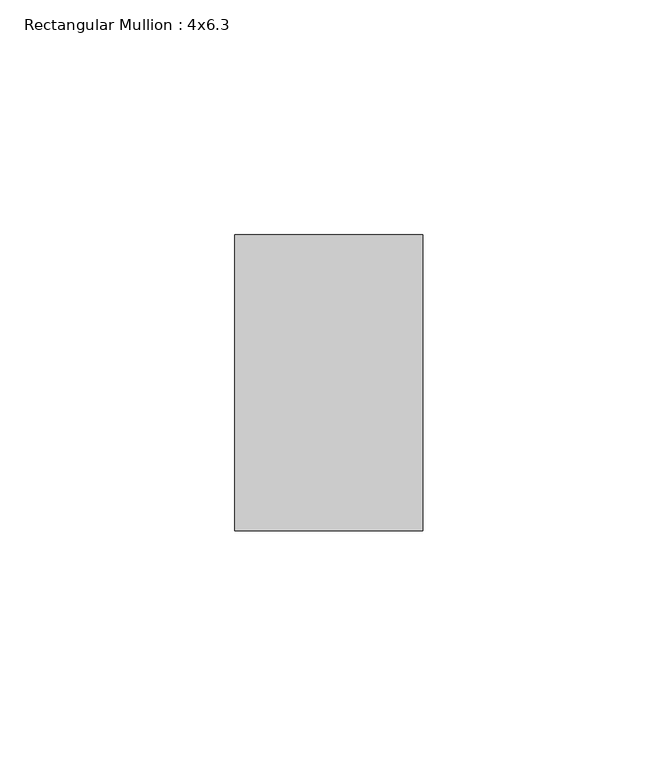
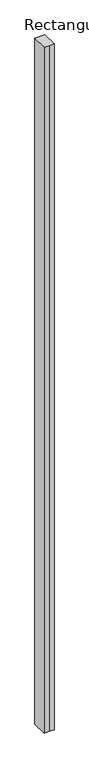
"""IFC4 building model written with IfcOpenShell, lengths in millimetres: member geometry, Rectangular Mullion : 4x6.3."""

import ifcopenshell
import ifcopenshell.guid

model = None  # the IFC model being written
_history = None  # IfcOwnerHistory: only IFC2X3 demands one
_inside = {}  # id of a spatial element -> (the spatial element, [elements in it])
_under = {}  # id of a project, library or spatial element -> (it, [spatial elements below it])
_declared = {}  # id of a project -> (the project, [libraries it declares])
_typed = {}  # id of a type object -> (the type object, [elements of that type])
_made_of = {}  # id of a material, layer set ... -> (it, [elements and type objects made of it])


def new_model(schema):
    """Start an empty IFC model of exactly this schema.

    Asked for "IFC4X3", IfcOpenShell would pick the latest addendum, in which some entities
    have other attributes; the version numbers below select the first issue.
    IFC2X3 requires an IfcOwnerHistory on every rooted entity: one is made here for all.
    """
    global model, _history
    if schema == "IFC4X3":
        model = ifcopenshell.file(schema_version=(4, 3, 0, 0))
    else:
        model = ifcopenshell.file(schema=schema)
    _inside.clear()
    _under.clear()
    _declared.clear()
    _typed.clear()
    _made_of.clear()
    _history = None
    if model.schema == "IFC2X3":
        org = make("IfcOrganization", Name="unknown")
        user = make(
            "IfcPersonAndOrganization",
            ThePerson=make("IfcPerson", FamilyName="unknown"),
            TheOrganization=org,
        )
        app = make(
            "IfcApplication",
            ApplicationDeveloper=org,
            Version="unknown",
            ApplicationFullName="unknown",
            ApplicationIdentifier="unknown",
        )
        _history = make(
            "IfcOwnerHistory",
            OwningUser=user,
            OwningApplication=app,
            ChangeAction="ADDED",
            CreationDate=0,
        )
    return model


def make(cls, **values):
    """One entity of the class cls with the attributes given. An attribute that is None is left unset."""
    return model.create_entity(
        cls, **{name: value for name, value in values.items() if value is not None}
    )


def rooted(cls, **values):
    """An entity with a GlobalId (a new one), such as an element, a storey or a relation."""
    return make(cls, GlobalId=ifcopenshell.guid.new(), OwnerHistory=_history, **values)


def si_unit(unit_type, name, prefix=None):
    """IfcSIUnit, for example si_unit("LENGTHUNIT", "METRE", prefix="MILLI")."""
    return make("IfcSIUnit", UnitType=unit_type, Prefix=prefix, Name=name)


def assignment(units):
    """IfcUnitAssignment: the units of a project."""
    return None if units is None else make("IfcUnitAssignment", Units=units)


def point(xyz):
    """IfcCartesianPoint."""
    return None if xyz is None else make("IfcCartesianPoint", Coordinates=xyz)


def direction(xyz):
    """IfcDirection."""
    return None if xyz is None else make("IfcDirection", DirectionRatios=xyz)


def frame(location, z_axis=None, x_axis=None):
    """IfcAxis2Placement3D, a coordinate frame: its origin and axes. An axis left out is left unset."""
    return make(
        "IfcAxis2Placement3D",
        Location=point(location),
        Axis=direction(z_axis),
        RefDirection=direction(x_axis),
    )


def origin():
    """The frame at (0, 0, 0) with its axes left unset."""
    return frame((0.0, 0.0, 0.0))


def place(relative_to, where):
    """IfcLocalPlacement: puts the frame where relative to a parent placement (None: the world)."""
    return make(
        "IfcLocalPlacement", PlacementRelTo=relative_to, RelativePlacement=where
    )


def context(
    kind, dimensions, precision=None, world=None, true_north=None, identifier=None
):
    """IfcGeometricRepresentationContext, for example the 3D "Model" context."""
    return make(
        "IfcGeometricRepresentationContext",
        ContextIdentifier=identifier,
        ContextType=kind,
        CoordinateSpaceDimension=dimensions,
        Precision=precision,
        WorldCoordinateSystem=world,
        TrueNorth=true_north,
    )


def project(units=None, contexts=None):
    """IfcProject with its units and contexts."""
    return rooted(
        "IfcProject",
        Name="project",
        RepresentationContexts=contexts,
        UnitsInContext=assignment(units),
    )


def spatial(cls, under=None, at=None, **own):
    """A site, building, storey or space (cls), placed at a placement, below another one or the project."""
    s = rooted(cls, ObjectPlacement=at, **own)
    if under is not None:
        _under.setdefault(under.id(), (under, []))[1].append(s)
    return s


def polyline(points):
    """IfcPolyline through the points."""
    return make("IfcPolyline", Points=[point(p) for p in points])


def outline(outer, holes=None, kind="AREA"):
    """IfcArbitraryClosedProfileDef: a profile drawn as a closed curve; with holes, ...WithVoids."""
    if holes is None:
        return make("IfcArbitraryClosedProfileDef", ProfileType=kind, OuterCurve=outer)
    return make(
        "IfcArbitraryProfileDefWithVoids",
        ProfileType=kind,
        OuterCurve=outer,
        InnerCurves=holes,
    )


def extrude(swept, where, along, depth):
    """IfcExtrudedAreaSolid: the profile swept, set in the frame where, extruded along a direction by depth."""
    return make(
        "IfcExtrudedAreaSolid",
        SweptArea=swept,
        Position=where,
        ExtrudedDirection=direction(along),
        Depth=depth,
    )


def shape(context_of_items, identifier, shape_type, items):
    """IfcShapeRepresentation: the items that make up one representation, for example the "Body"."""
    return make(
        "IfcShapeRepresentation",
        ContextOfItems=context_of_items,
        RepresentationIdentifier=identifier,
        RepresentationType=shape_type,
        Items=items,
    )


def source(mapping_origin, context_of_items, identifier, shape_type, items):
    """IfcRepresentationMap: a shape defined once, which mapped items show again and again."""
    return make(
        "IfcRepresentationMap",
        MappingOrigin=mapping_origin,
        MappedRepresentation=shape(context_of_items, identifier, shape_type, items),
    )


def transform(
    local_origin,
    x_axis=None,
    y_axis=None,
    z_axis=None,
    scale=None,
    scale2=None,
    scale3=None,
    uniform=True,
):
    """IfcCartesianTransformationOperator3D, or its non-uniform kind. x_axis, y_axis, z_axis: its Axis1, 2, 3."""
    if uniform:
        return make(
            "IfcCartesianTransformationOperator3D",
            Axis1=direction(x_axis),
            Axis2=direction(y_axis),
            LocalOrigin=point(local_origin),
            Scale=scale,
            Axis3=direction(z_axis),
        )
    return make(
        "IfcCartesianTransformationOperator3DnonUniform",
        Axis1=direction(x_axis),
        Axis2=direction(y_axis),
        LocalOrigin=point(local_origin),
        Scale=scale,
        Axis3=direction(z_axis),
        Scale2=scale2,
        Scale3=scale3,
    )


def mapped(mapping_source, mapping_target):
    """IfcMappedItem: shows the shape of a source again, moved by a transform."""
    return make(
        "IfcMappedItem", MappingSource=mapping_source, MappingTarget=mapping_target
    )


def made_of(thing, what):
    """Note that an element or type object is made of a material, layer set ...; save() writes the relation."""
    if what is not None:
        _made_of.setdefault(what.id(), (what, []))[1].append(thing)
    return thing


def element(
    cls,
    number,
    at=None,
    inside=None,
    cuts=None,
    type_object=None,
    material=None,
    context=None,
    identifier="Body",
    shape_type=None,
    held_by="IfcProductDefinitionShape",
    body=None,
    shapes=None,
    **own,
):
    """One element of the class cls, such as IfcWall. Its Tag is "e" and its number.

    at: its placement. inside: the storey or other place that contains it. cuts: it is an
    opening in that element (IfcRelVoidsElement). A single representation is given by context,
    identifier, shape_type and body (its items); several are given by shapes. held_by: the class
    of the entity that holds the representations. save() writes the other relations.
    """
    e = rooted(cls, Tag="e%d" % number, ObjectPlacement=at, **own)
    if body is not None:
        shapes = [shape(context, identifier, shape_type, body)]
    if shapes is not None:
        e.Representation = make(held_by, Representations=shapes)
    if inside is not None:
        _inside.setdefault(inside.id(), (inside, []))[1].append(e)
    if cuts is not None:
        rooted(
            "IfcRelVoidsElement", RelatingBuildingElement=cuts, RelatedOpeningElement=e
        )
    if type_object is not None:
        _typed.setdefault(type_object.id(), (type_object, []))[1].append(e)
    return made_of(e, material)


def aggregate(whole, parts):
    """IfcRelAggregates: a whole, such as a stair, and the parts it consists of."""
    return rooted("IfcRelAggregates", RelatingObject=whole, RelatedObjects=parts)


def save(model, path):
    """Write the relations noted so far, then the file.

    IfcRelAggregates (storeys below a building ...), IfcRelContainedInSpatialStructure (elements
    in a storey), IfcRelDefinesByType, IfcRelAssociatesMaterial and IfcRelDeclares: one each for
    every whole, place, type object, material and project.
    """
    for whole, parts in _under.values():
        aggregate(whole, parts)
    for where, things in _inside.values():
        rooted(
            "IfcRelContainedInSpatialStructure",
            RelatedElements=things,
            RelatingStructure=where,
        )
    for kind, things in _typed.values():
        rooted("IfcRelDefinesByType", RelatedObjects=things, RelatingType=kind)
    for what, things in _made_of.values():
        rooted("IfcRelAssociatesMaterial", RelatedObjects=things, RelatingMaterial=what)
    for by, libraries in _declared.values():
        rooted("IfcRelDeclares", RelatingContext=by, RelatedDefinitions=libraries)
    model.write(path)


def rectangular_mullion_4x6_3_ff4a991a(model_context):
    return source(origin(), model_context, "Body", "SweptSolid", [
        extrude(outline(polyline([(-20.0, 20.0), (-20.0, 83.0), (20.0, 83.0), (20.0, 20.0), (0.0, 20.0), (-20.0, 20.0)])), frame((0.0, 0.0, -2890.8548305), z_axis=(0.0, 0.0, 1.0), x_axis=(1.0, 0.0, 0.0)), (0.0, 0.0, 1.0), 2890.8548305),
    ])


if __name__ == "__main__":
    model = new_model("IFC4")
    model_context = context("Model", 3, world=origin())
    ifc_project = project(units=[si_unit("LENGTHUNIT", "METRE", prefix="MILLI")], contexts=[model_context])
    site = spatial("IfcSite", under=ifc_project)
    building = spatial("IfcBuilding", under=site)
    placement = place(None, origin())
    rectangular_mullion_4x6_3_shape = rectangular_mullion_4x6_3_ff4a991a(model_context)
    element("IfcMember", 1, ObjectType="Rectangular Mullion : 4x6.3", at=placement, inside=building, context=model_context, shape_type="MappedRepresentation", body=[
        mapped(rectangular_mullion_4x6_3_shape, transform((0.0, 0.0, 0.0), x_axis=(1.0, 0.0, 0.0), y_axis=(0.0, 1.0, 0.0), z_axis=(0.0, 0.0, 1.0))),
    ])
    save(model, "model.ifc")
